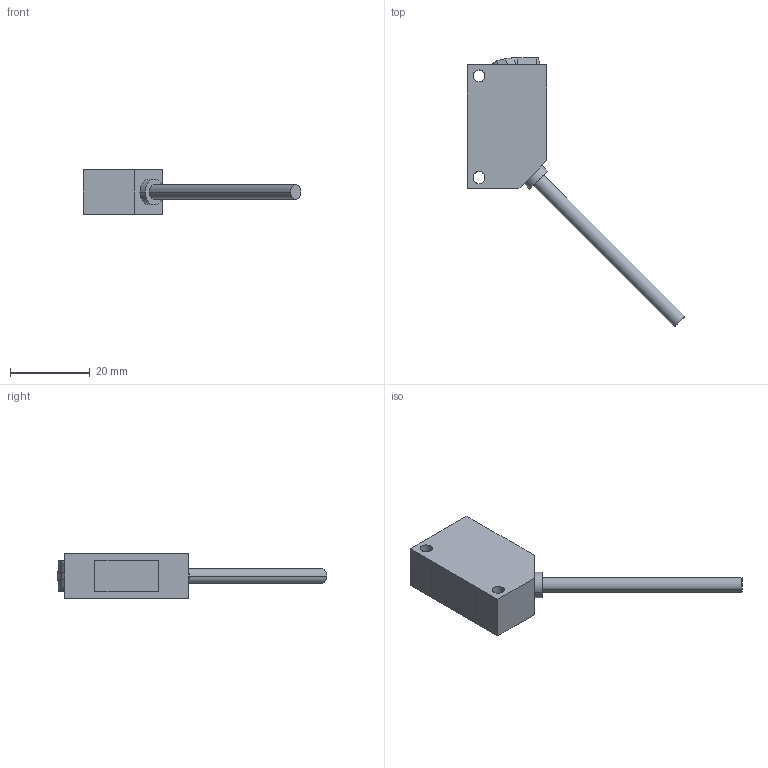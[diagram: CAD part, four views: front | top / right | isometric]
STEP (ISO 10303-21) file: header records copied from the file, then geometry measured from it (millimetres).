
FILE_DESCRIPTION (( 'STEP AP203' ), '1' );
FILE_NAME ('cx-421.STEP', '2008-09-10T00:51:18', ( ' ' ), ( ' ' ), 'SwSTEP 2.0', 'SolidWorks 2007', '' );
FILE_SCHEMA (( 'CONFIG_CONTROL_DESIGN' ));
Length unit declared in the file: millimetre
Products named in the file (1): cx-421
Bounding box: 54.51 x 67.41 x 11.2 mm (x, y, z)
Volume: 7194.9 mm3; surface area: 3141.5 mm2
Topology: 1 solids, 1 shells, 64 faces, 161 edges, 104 vertices
Faces by surface type: plane 30, cylinder 28, cone 4, bspline 2
Entity records: 2062 total; most frequent: CARTESIAN_POINT 425, DIRECTION 327, ORIENTED_EDGE 322, EDGE_CURVE 161, AXIS2_PLACEMENT_3D 120, VERTEX_POINT 104, VECTOR 87, LINE 87
